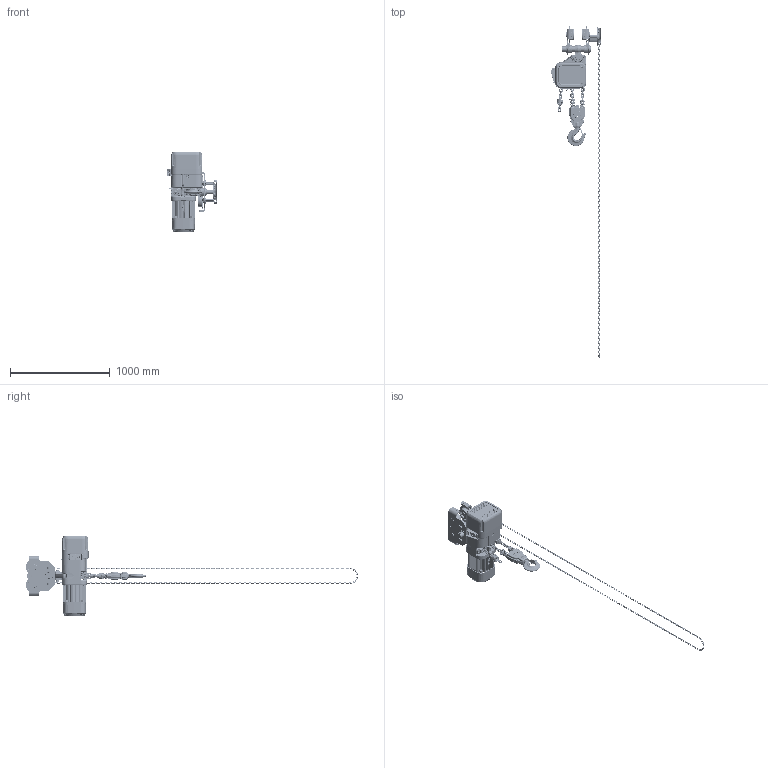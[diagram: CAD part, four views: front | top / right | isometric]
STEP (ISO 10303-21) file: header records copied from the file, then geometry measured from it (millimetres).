
FILE_DESCRIPTION (( 'STEP AP214' ), '1' );
FILE_NAME ('NER2G050LD.STEP', '2026-08-05T15:14:10', ( '' ), ( '' ), 'SwSTEP 2.0', 'SolidWorks 2026', '' );
FILE_SCHEMA (( 'AUTOMOTIVE_DESIGN' ));
Length unit declared in the file: millimetre
Products named in the file (91): E3S111003; T3G121020; 9009437_9009437; ER2CS9357; T3GA0509102; LCER2025NP_12 Links; ER2CS9511; ER2FR1011; ER2FS9337; ES558003; MS164050; ER2FS6122; HCCF005 for GT2030; ER2FS9105; ER2ES9107_ER2ES9107; T3P1102050; T3GB0109122; NER2050LD_FOR MANUAL TROLLEY; ER2EI9185_ER2EI9185; hexagon slotted nut low_1_jis_T3G259010; ER2FR9030; ER2FS6121; ES127005S; M2049030_M2049030; ER2FR9015; socket head cap screw_am_9091274; GTS2050_6" FLANGE; M6SE050S9161; M6SE050S9103; NER2G050LD; T5GA0505111; J1NL00120200_J1NL00120200; split pin (metric) as_9009432; ER1FS9054; single coil rectangular section spring washer_bsi_9012711; external tooth lock washer_am_B18.21.2M-External Tooth Lock Washers_AM6; Spring Lock Washer for M4; ER2BHM50K9A6; ER2FR9011; ES041050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
Assembly tree (464 placements, depth 5):
  NER2G050LD
    GTS2050_6" FLANGE
      T5GA0505111
        T5GA0509111
        T5GA0509113
        M6SE050S9103  x2
        T3GB0109122
        T3GB0109125  x2
        J1RD31080030  x4
      T5GA0505112
        T5GA0509112
        T5GA0509113
        M6SE050S9103  x2
      T3G123010
      T3P1102050  x2
        T3GA0509102
        basic internal retaining ring_am_PreviewCfg
        6307Z Bearing
      MS104050  x4
      basic external retaining ring_am_9047135  x4
      T3G1101050  x2
        T3GA0509101
        6307Z Bearing
        basic internal retaining ring_am_J1SR000-00052
      hexagon slotted nut low_1_jis_T3P154050
      HCCF005 for GT2030
        HCCF005  x274
      T3G121020
      flat washer narrow_am_9012515
      hexagon slotted nut low_1_jis_T3G259010
      split pin (metric) as_9009423  x2
      T7GA0509115
      MS164050
      M6SE050S9161
      split pin (metric) as_9009432
    NER2050LD_FOR MANUAL TROLLEY
      ER2FI2104
        ER2FI9104_ER2FI9104
        ER2EI9185_ER2EI9185
        J1AP24001212  x4
          Spring Lock Washer for M4
          pan cross head_am_B18.6.7M - M6 x 1.0 x 16 Type I Cross Recessed PHMS --16N
      ER2FS9103
      ER2FS9101
      ER2FS9105
      ER2ES9107_ER2ES9107
      ER2FS9331
      ER2FS9338
      ER2FS9337
      ER2CS9357
      single coil rectangular section spring washer_bsi_9012711  x4
      socket head cap screw_am_9091274  x4
      9091255_9091255  x4
      90912116_90912116  x4
      external tooth lock washer_am_B18.21.2M-External Tooth Lock Washers_AM6  x4
      9091254_9091254  x4
      ES127005S
      ER1BS9135
      E3S112003
      E3S111003
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Bounding box: 509.9 x 3332.12 x 800.07 mm (x, y, z)
Volume: 48287708 mm3; surface area: 4463068.4 mm2
Topology: 473 solids, 493 shells, 13476 faces, 32802 edges, 19762 vertices
Faces by surface type: cylinder 4551, plane 3900, torus 2874, bspline 1205, cone 687, sphere 259
Entity records: 293216 total; most frequent: CARTESIAN_POINT 118881, ORIENTED_EDGE 35372, DIRECTION 35006, EDGE_CURVE 17688, AXIS2_PLACEMENT_3D 13793, VERTEX_POINT 11061, EDGE_LOOP 7581, VECTOR 7420
